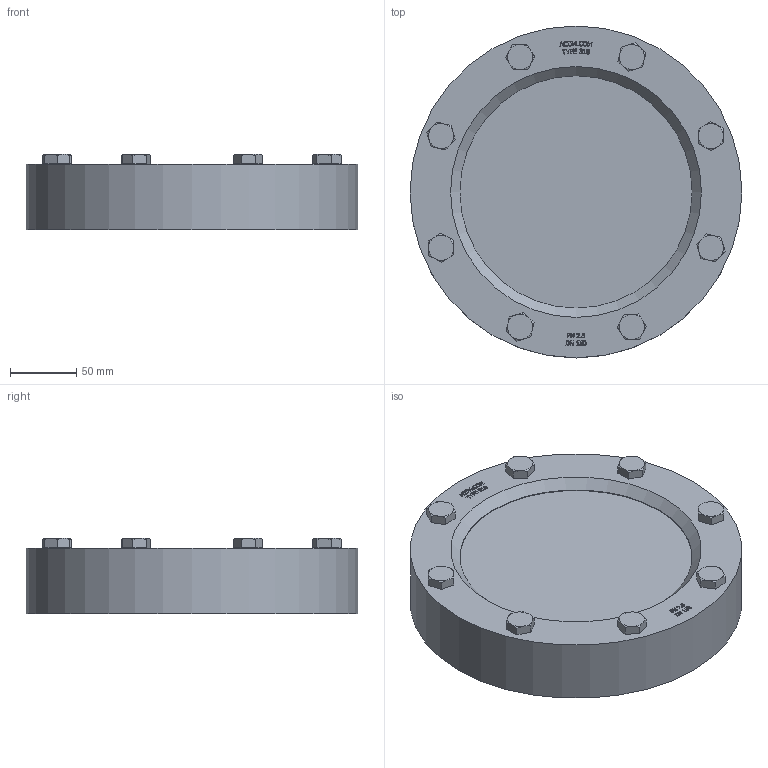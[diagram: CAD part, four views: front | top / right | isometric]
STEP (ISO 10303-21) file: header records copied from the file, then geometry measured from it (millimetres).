
FILE_DESCRIPTION(/* description */ ('ACI Typ 318V DN150'),/* implementation_level */ '2;1');
FILE_NAME(/* name */ 'W:\_Allgemein\Götz-Willms\_Schreibtisch\ACI-318V-150.stp',/* time_stamp */ '2020-02-04T12:53:46+01:00',/* author */ ('Götz'),/* organization */ ('ACI Industriearmaturen GmbH'),/* preprocessor_version */ 'ST-DEVELOPER v16.1',/* originating_system */ 'Autodesk Inventor 2016',/* authorisation */ 'ACI Industriearmaturen GmbH');
FILE_SCHEMA (('CONFIG_CONTROL_DESIGN'));
Length unit declared in the file: centimetre
Products named in the file (1): ACI-318V-150
Bounding box: 250 x 250 x 56.5 mm (x, y, z)
Volume: 1977830.8 mm3; surface area: 146122.1 mm2
Topology: 1 solids, 1 shells, 527 faces, 1367 edges, 895 vertices
Faces by surface type: plane 296, bspline 170, cone 50, cylinder 11
Full cylindrical faces by diameter (mm): 17.2 x8, 175 x2, 250 x1
Entity records: 17188 total; most frequent: CARTESIAN_POINT 5177, ORIENTED_EDGE 2706, DIRECTION 1705, EDGE_CURVE 1353, VERTEX_POINT 894, LINE 845, VECTOR 845, EDGE_LOOP 593
